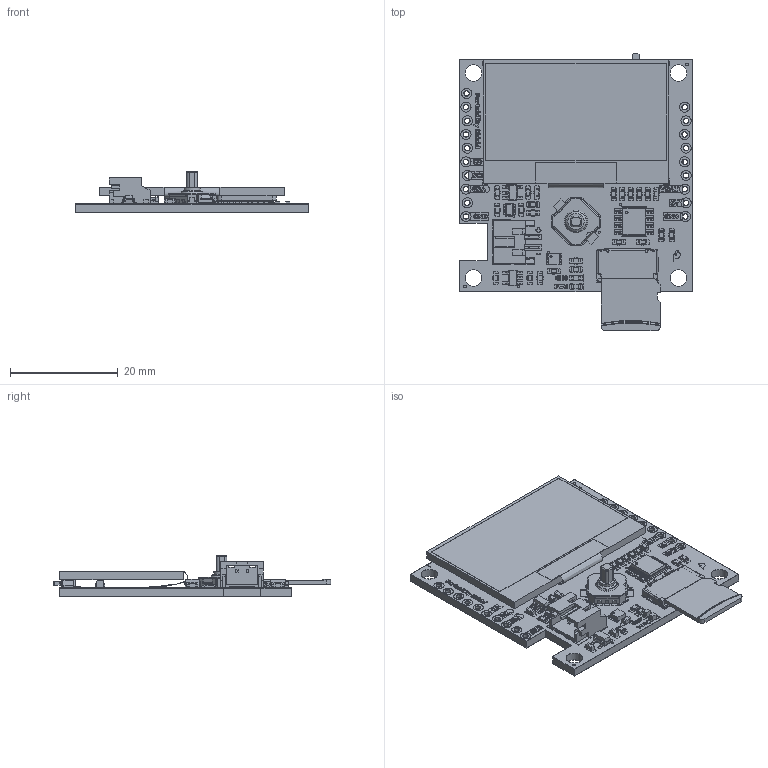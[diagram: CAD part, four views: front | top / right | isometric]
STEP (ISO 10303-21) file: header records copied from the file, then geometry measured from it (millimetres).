
FILE_DESCRIPTION(/* description */ ('KiCad electronic assembly','CAx-IF Rec.Pracs.---Representation and Presentation of Product Manufacturing Information (PMI)---4.0---2014-10-13'),/* implementation_level */ '2;1');
FILE_NAME(/* name */ 'Portability Shield v6.step',/* time_stamp */ '2024-12-18T10:10:32-07:00',/* author */ (''),/* organization */ (''),/* preprocessor_version */ 'ST-DEVELOPER v20',/* originating_system */ 'Autodesk Translation Framework v13.20.0.188',/* authorisation */ '');
FILE_SCHEMA (('AP242_MANAGED_MODEL_BASED_3D_ENGINEERING_MIM_LF { 1 0 10303 442 1 1 4 }'));
Products named in the file (46): cad_model 1; SOT-583-3; FRAME-DRL0008A; SOLID; SOLID_1; SOLID_2; SOLID_3; SOLID_4; SOLID_5; SOLID_6; SOLID_7; BODY-SOT; LED_0603_1608Metric_Red; JST_SMD_2.0mm-2-Black; JST-PH-2 v1; JST-PH-2 v1_1; JST-PH-2 v1_2; JST-PH-2 v1_3; JST-PH-2 v1_4; LED_0603_1608Metric_Yellow; TSSOP-16_4.4x5mm_P0.65mm; SW_SPDT_PCM12; Navigation_SMD_7.5x7.5mm; DFN-8-1EP_2x2mm_P0.5mm_EP1.05x1.75mm; SparkFun_Portability_Shield_copper; SparkFun_Portability_Shield_pad; SparkFun_Portability_Shield_silkscreen; SparkFun_Portability_Shield_soldermask; SparkFun_Portability_Shield_PCB; SOT-23-5; C_0603_1608Metric; C_0805_2012Metric; R_0603_1608Metric; microSD_Friction_Fit; 83721C7F-32BC-402F-9845-702A87134162; 83721C7F-32BC-402F-9845-702A87134162_1; 83721C7F-32BC-402F-9845-702A87134162_2; 83721C7F-32BC-402F-9845-702A87134162_3; 83721C7F-32BC-402F-9845-702A87134162_4; 83721C7F-32BC-402F-9845-702A87134162_5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
Assembly tree (76 placements, depth 4):
  cad_model 1
    SOT-583-3
      FRAME-DRL0008A
        SOLID
        SOLID_1
        SOLID_2
        SOLID_3
        SOLID_4
        SOLID_5
        SOLID_6
        SOLID_7
      BODY-SOT
    R_0603_1608Metric  x17
    C_0603_1608Metric  x13
    LED_0603_1608Metric_Red
    JST_SMD_2.0mm-2-Black
      JST-PH-2 v1
      JST-PH-2 v1_1
      JST-PH-2 v1_2
      JST-PH-2 v1_3
      JST-PH-2 v1_4
    C_0805_2012Metric  x3
    LED_0603_1608Metric_Yellow
    TSSOP-16_4.4x5mm_P0.65mm
    SW_SPDT_PCM12
    Navigation_SMD_7.5x7.5mm
    SOT-23-5  x2
    DFN-8-1EP_2x2mm_P0.5mm_EP1.05x1.75mm
    SparkFun_Portability_Shield_copper
    SparkFun_Portability_Shield_pad
    SparkFun_Portability_Shield_silkscreen
    SparkFun_Portability_Shield_soldermask
    SparkFun_Portability_Shield_PCB
    microSD_Friction_Fit
      83721C7F-32BC-402F-9845-702A87134162
      83721C7F-32BC-402F-9845-702A87134162_1
      83721C7F-32BC-402F-9845-702A87134162_2
      83721C7F-32BC-402F-9845-702A87134162_3
      83721C7F-32BC-402F-9845-702A87134162_4
      83721C7F-32BC-402F-9845-702A87134162_5
      83721C7F-32BC-402F-9845-702A87134162_6
      83721C7F-32BC-402F-9845-702A87134162_7
      83721C7F-32BC-402F-9845-702A87134162_8
      83721C7F-32BC-402F-9845-702A87134162_9
      83721C7F-32BC-402F-9845-702A87134162_10
      83721C7F-32BC-402F-9845-702A87134162_11
Bounding box: 43.18 x 51.55 x 7.67 mm (x, y, z)
Volume: 4385.9 mm3; surface area: 12071.8 mm2
Topology: 323 solids, 570 shells, 4927 faces, 18674 edges, 14694 vertices
Faces by surface type: plane 3517, cylinder 1370, torus 25, cone 6, bspline 5, sphere 4
Full cylindrical faces by diameter (mm): 0.4 x1, 0.5 x5, 0.65 x1, 0.7 x1, 0.8 x4, 0.9 x2, 0.95 x1, 0.966 x63, 1 x1, 1.016 x42, 1.88 x42, 3 x1, 3.1 x4
Entity records: 178181 total; most frequent: CARTESIAN_POINT 35107, DIRECTION 28111, ORIENTED_EDGE 25770, EDGE_CURVE 16491, VERTEX_POINT 13267, LINE 13185, VECTOR 13185, AXIS2_PLACEMENT_3D 7463
